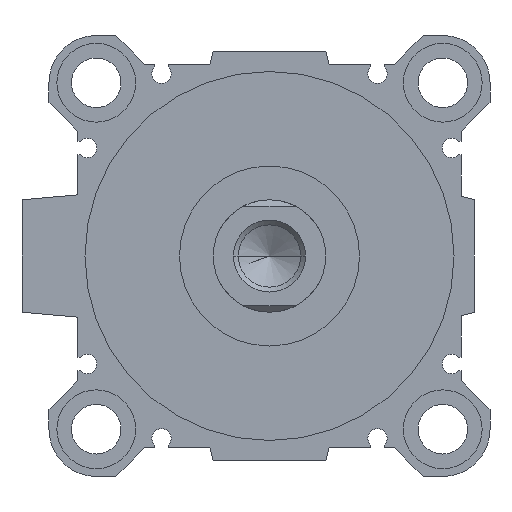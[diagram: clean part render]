
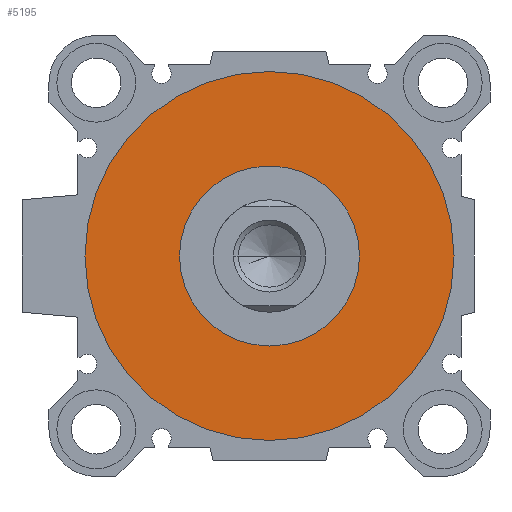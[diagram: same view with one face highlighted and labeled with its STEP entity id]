
A CAD part, left-side view. The second image highlights one B-rep face of the part: STEP entity #5195.
In plain terms, the highlighted planar face has unit normal (-1, 0, 0).
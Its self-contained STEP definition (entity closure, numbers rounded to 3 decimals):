
#59 = PLANE ( 'NONE',  #732 ) ;
#89 = VERTEX_POINT ( 'NONE', #4494 ) ;
#732 = AXIS2_PLACEMENT_3D ( 'NONE', #1232, #1642, #3376 ) ;
#765 = DIRECTION ( 'NONE',  ( 1., 0., 0. ) ) ;
#962 = DIRECTION ( 'NONE',  ( 1., 0., 0. ) ) ;
#1232 = CARTESIAN_POINT ( 'NONE',  ( 5., 0., 0. ) ) ;
#1252 = DIRECTION ( 'NONE',  ( 0., 0., -1. ) ) ;
#1363 = EDGE_LOOP ( 'NONE', ( #3089, #4762 ) ) ;
#1427 = VERTEX_POINT ( 'NONE', #2341 ) ;
#1642 = DIRECTION ( 'NONE',  ( 1., 0., 0. ) ) ;
#1716 = DIRECTION ( 'NONE',  ( 1., 0., 0. ) ) ;
#1743 = DIRECTION ( 'NONE',  ( 1., 0., 0. ) ) ;
#1841 = EDGE_LOOP ( 'NONE', ( #3616, #2777 ) ) ;
#1930 = AXIS2_PLACEMENT_3D ( 'NONE', #2110, #1716, #1252 ) ;
#2110 = CARTESIAN_POINT ( 'NONE',  ( 5., 0., 0. ) ) ;
#2231 = CIRCLE ( 'NONE', #3723, 41. ) ;
#2260 = EDGE_CURVE ( 'NONE', #1427, #4734, #4907, .T. ) ;
#2341 = CARTESIAN_POINT ( 'NONE',  ( 5., 0., -20. ) ) ;
#2490 = AXIS2_PLACEMENT_3D ( 'NONE', #3293, #765, #5296 ) ;
#2777 = ORIENTED_EDGE ( 'NONE', *, *, #2260, .T. ) ;
#2830 = EDGE_CURVE ( 'NONE', #4072, #89, #2231, .T. ) ;
#2939 = FACE_BOUND ( 'NONE', #1841, .T. ) ;
#2972 = CARTESIAN_POINT ( 'NONE',  ( 5., 0., 20. ) ) ;
#3068 = CARTESIAN_POINT ( 'NONE',  ( 5., 0., 41. ) ) ;
#3089 = ORIENTED_EDGE ( 'NONE', *, *, #2830, .F. ) ;
#3293 = CARTESIAN_POINT ( 'NONE',  ( 5., 0., 0. ) ) ;
#3369 = CARTESIAN_POINT ( 'NONE',  ( 5., 0., 0. ) ) ;
#3376 = DIRECTION ( 'NONE',  ( 0., 1., 0. ) ) ;
#3571 = EDGE_CURVE ( 'NONE', #4734, #1427, #4295, .T. ) ;
#3616 = ORIENTED_EDGE ( 'NONE', *, *, #3571, .T. ) ;
#3723 = AXIS2_PLACEMENT_3D ( 'NONE', #5111, #962, #4707 ) ;
#3774 = AXIS2_PLACEMENT_3D ( 'NONE', #3369, #1743, #4611 ) ;
#4072 = VERTEX_POINT ( 'NONE', #3068 ) ;
#4295 = CIRCLE ( 'NONE', #3774, 20. ) ;
#4494 = CARTESIAN_POINT ( 'NONE',  ( 5., 0., -41. ) ) ;
#4611 = DIRECTION ( 'NONE',  ( 0., 0., -1. ) ) ;
#4688 = CIRCLE ( 'NONE', #2490, 41. ) ;
#4707 = DIRECTION ( 'NONE',  ( 0., 0., -1. ) ) ;
#4734 = VERTEX_POINT ( 'NONE', #2972 ) ;
#4762 = ORIENTED_EDGE ( 'NONE', *, *, #5083, .F. ) ;
#4907 = CIRCLE ( 'NONE', #1930, 20. ) ;
#5083 = EDGE_CURVE ( 'NONE', #89, #4072, #4688, .T. ) ;
#5111 = CARTESIAN_POINT ( 'NONE',  ( 5., 0., 0. ) ) ;
#5195 = ADVANCED_FACE ( 'NONE', ( #5411, #2939 ), #59, .F. ) ;
#5296 = DIRECTION ( 'NONE',  ( 0., 0., -1. ) ) ;
#5411 = FACE_OUTER_BOUND ( 'NONE', #1363, .T. ) ;
